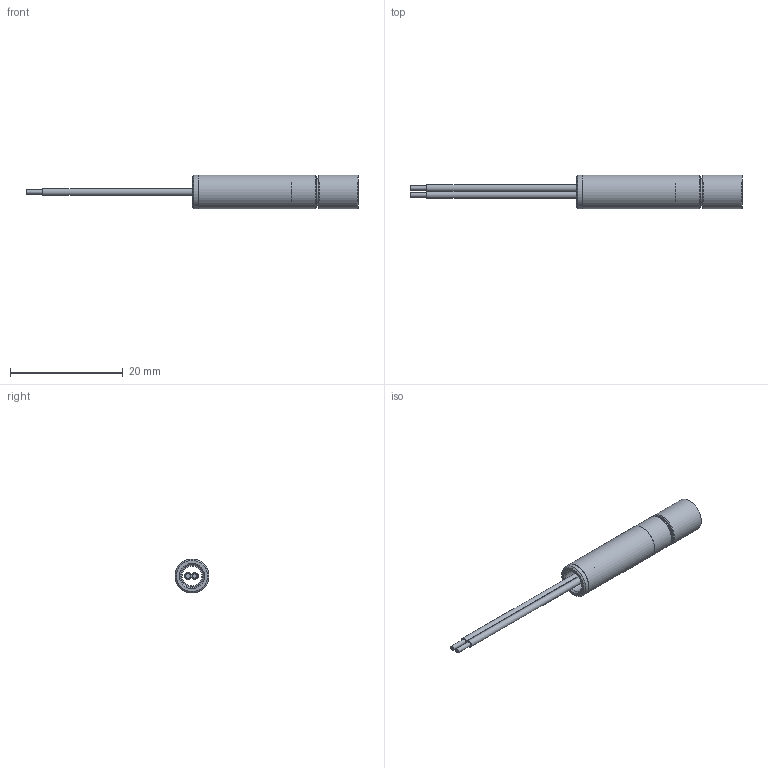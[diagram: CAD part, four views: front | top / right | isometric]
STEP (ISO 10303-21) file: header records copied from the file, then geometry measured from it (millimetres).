
FILE_DESCRIPTION(/* description */ ('Unknown'),/* implementation_level */ '2;1');
FILE_NAME(/* name */ 'ZB',/* time_stamp */ '2017-05-04T16:17:01+02:00',/* author */ ('Unknown'),/* organization */ ('Unknown'),/* preprocessor_version */ 'ST-DEVELOPER v16.7',/* originating_system */ 'DEX',/* authorisation */ $);
FILE_SCHEMA (('AUTOMOTIVE_DESIGN {1 0 10303 214 3 1 1}'));
Length unit declared in the file: millimetre
Products named in the file (6): Z1B_komplett; 0200911_ZxB_Diodenaufnahme; 0200930_ZxB_Gehäuse; 0200921_Z1B_Endkappe_Vers_B; 0200941_ZxB_Kappe; Rot_Schwarz_30mm
Assembly tree (5 placements, depth 2):
  Z1B_komplett
    0200911_ZxB_Diodenaufnahme
    0200930_ZxB_Gehäuse
    0200921_Z1B_Endkappe_Vers_B
    0200941_ZxB_Kappe
    Rot_Schwarz_30mm
Bounding box: 58.8 x 6 x 6 mm (x, y, z)
Volume: 310.4 mm3; surface area: 1573.5 mm2
Topology: 5 solids, 5 shells, 63 faces, 121 edges, 82 vertices
Faces by surface type: plane 26, cylinder 24, cone 13
Full cylindrical faces by diameter (mm): 0.8 x2, 3.5 x1, 3.8 x1, 4 x1, 4.4 x1, 4.5 x1, 4.6 x1, 4.7 x1, 4.959 x1, 5.05 x1, 5.4 x1, 5.5 x1, 5.559 x1, 5.6 x1, 5.65 x3, 6 x4
Entity records: 1744 total; most frequent: DIRECTION 268, CARTESIAN_POINT 203, ORIENTED_EDGE 138, AXIS2_PLACEMENT_3D 130, EDGE_LOOP 120, FACE_BOUND 120, EDGE_CURVE 69, VERTEX_POINT 65
